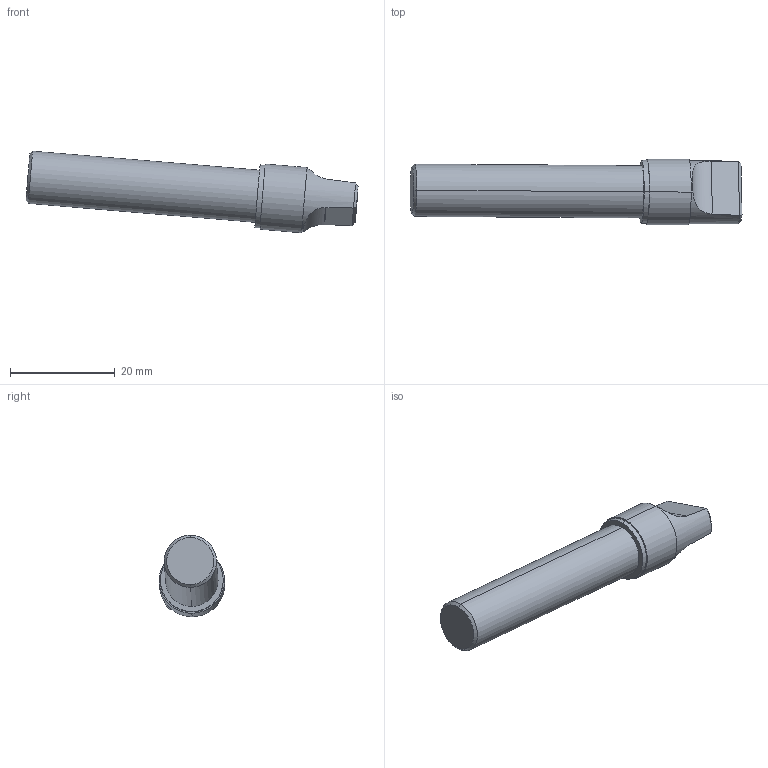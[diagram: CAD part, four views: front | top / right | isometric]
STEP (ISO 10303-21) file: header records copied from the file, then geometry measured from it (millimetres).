
FILE_DESCRIPTION (( 'STEP AP203' ), '1' );
FILE_NAME ('Bouton mirroir_2_Défaut_sldprt.STEP', '2018-04-06T14:28:38', ( '' ), ( '' ), 'SwSTEP 2.0', 'SolidWorks 2013', '' );
FILE_SCHEMA (( 'CONFIG_CONTROL_DESIGN' ));
Length unit declared in the file: millimetre
Products named in the file (1): Bouton mirroir_2_Défaut_sldprt
Bounding box: 63.42 x 12.55 x 15.58 mm (x, y, z)
Volume: 5252.9 mm3; surface area: 2260.2 mm2
Topology: 1 solids, 1 shells, 24 faces, 55 edges, 36 vertices
Faces by surface type: cylinder 11, plane 9, cone 4
Entity records: 844 total; most frequent: CARTESIAN_POINT 240, ORIENTED_EDGE 110, DIRECTION 107, EDGE_CURVE 55, AXIS2_PLACEMENT_3D 45, VERTEX_POINT 36, EDGE_LOOP 27, ADVANCED_FACE 24
